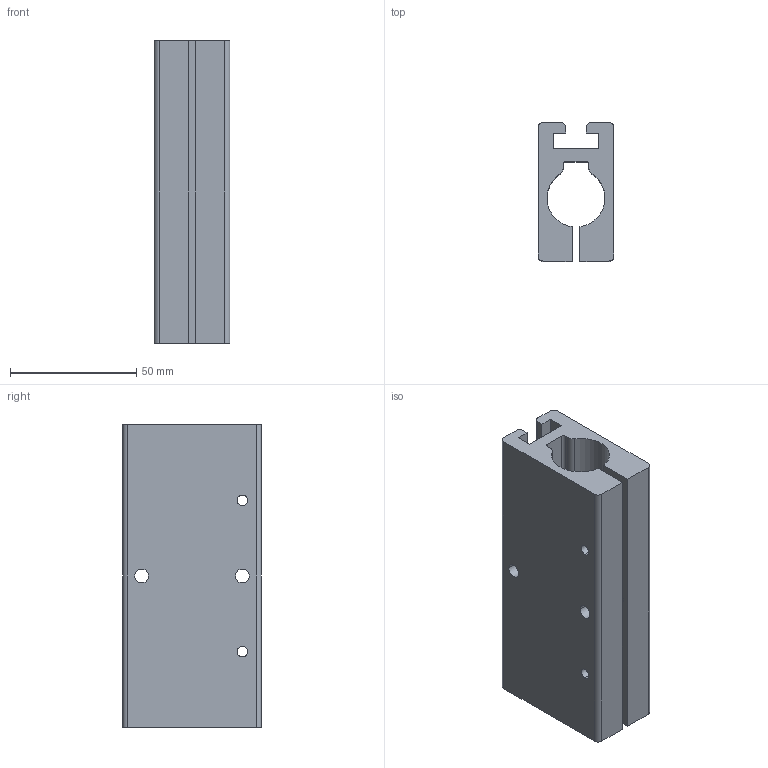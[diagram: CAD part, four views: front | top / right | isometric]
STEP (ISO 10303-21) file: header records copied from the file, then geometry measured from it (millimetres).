
FILE_DESCRIPTION (( 'STEP AP214' ), '1' );
FILE_NAME ('PF01-23x120.STEP', '2004-08-23T05:48:08', ( 'Mitarbeiter' ), ( 'Firma' ), 'SwSTEP 2.0', 'SolidWorks 2001287', '' );
FILE_SCHEMA (( 'AUTOMOTIVE_DESIGN' ));
Length unit declared in the file: millimetre
Products named in the file (1): PF01-23x120
Bounding box: 30 x 55 x 120 mm (x, y, z)
Volume: 116641.2 mm3; surface area: 40178.8 mm2
Topology: 1 solids, 1 shells, 64 faces, 180 edges, 120 vertices
Faces by surface type: cylinder 37, plane 27
Entity records: 2157 total; most frequent: DIRECTION 388, CARTESIAN_POINT 365, ORIENTED_EDGE 360, EDGE_CURVE 180, AXIS2_PLACEMENT_3D 143, VERTEX_POINT 120, LINE 102, VECTOR 102
